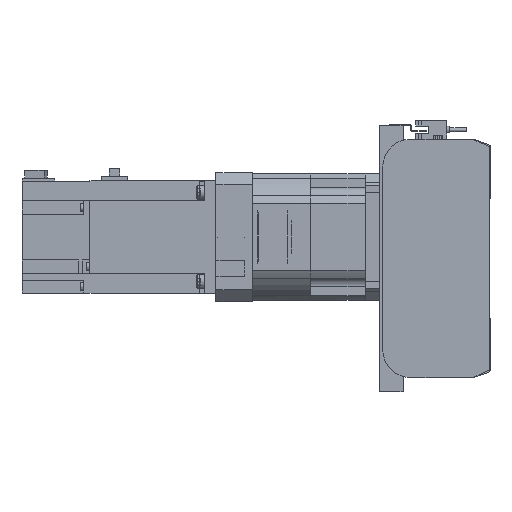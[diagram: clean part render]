
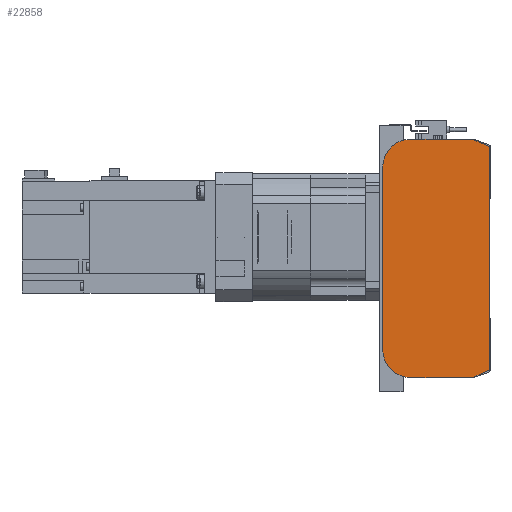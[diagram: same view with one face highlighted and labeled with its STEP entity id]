
A CAD part, left-side view. The second image highlights one B-rep face of the part: STEP entity #22858.
In plain terms, the highlighted planar face has unit normal (-1, 0, 0).
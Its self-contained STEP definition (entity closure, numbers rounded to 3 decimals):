
#1718=CIRCLE('',#25025,2.);
#1719=CIRCLE('',#25028,2.);
#1720=CIRCLE('',#25031,20.);
#1721=CIRCLE('',#25034,20.);
#6607=ORIENTED_EDGE('',*,*,#10845,.F.);
#6608=ORIENTED_EDGE('',*,*,#10923,.F.);
#6609=ORIENTED_EDGE('',*,*,#10921,.F.);
#6610=ORIENTED_EDGE('',*,*,#10919,.F.);
#6611=ORIENTED_EDGE('',*,*,#10637,.F.);
#6612=ORIENTED_EDGE('',*,*,#10918,.F.);
#6613=ORIENTED_EDGE('',*,*,#10916,.F.);
#6614=ORIENTED_EDGE('',*,*,#10914,.F.);
#6615=ORIENTED_EDGE('',*,*,#10912,.F.);
#6616=ORIENTED_EDGE('',*,*,#10910,.F.);
#10637=EDGE_CURVE('',#13129,#13130,#15077,.T.);
#10845=EDGE_CURVE('',#13201,#13202,#15191,.T.);
#10910=EDGE_CURVE('',#13202,#13243,#15236,.T.);
#10912=EDGE_CURVE('',#13243,#13244,#1718,.T.);
#10914=EDGE_CURVE('',#13244,#13245,#15239,.T.);
#10916=EDGE_CURVE('',#13245,#13246,#1719,.T.);
#10918=EDGE_CURVE('',#13246,#13129,#15242,.T.);
#10919=EDGE_CURVE('',#13130,#13247,#1720,.T.);
#10921=EDGE_CURVE('',#13247,#13248,#15244,.T.);
#10923=EDGE_CURVE('',#13248,#13201,#1721,.T.);
#13129=VERTEX_POINT('',#38397);
#13130=VERTEX_POINT('',#38399);
#13201=VERTEX_POINT('',#38730);
#13202=VERTEX_POINT('',#38732);
#13243=VERTEX_POINT('',#38862);
#13244=VERTEX_POINT('',#38866);
#13245=VERTEX_POINT('',#38870);
#13246=VERTEX_POINT('',#38874);
#13247=VERTEX_POINT('',#38880);
#13248=VERTEX_POINT('',#38884);
#15077=LINE('',#38398,#17012);
#15191=LINE('',#38731,#17126);
#15236=LINE('',#38861,#17171);
#15239=LINE('',#38869,#17174);
#15242=LINE('',#38877,#17177);
#15244=LINE('',#38883,#17179);
#17012=VECTOR('',#30341,1000.);
#17126=VECTOR('',#30749,1000.);
#17171=VECTOR('',#30882,1000.);
#17174=VECTOR('',#30891,1000.);
#17177=VECTOR('',#30900,1000.);
#17179=VECTOR('',#30908,1000.);
#18768=EDGE_LOOP('',(#6607,#6608,#6609,#6610,#6611,#6612,#6613,#6614,#6615,
#6616));
#20639=FACE_BOUND('',#18768,.T.);
#21702=PLANE('',#25036);
#22858=ADVANCED_FACE('',(#20639),#21702,.F.);
#25025=AXIS2_PLACEMENT_3D('',#38865,#30886,#30887);
#25028=AXIS2_PLACEMENT_3D('',#38873,#30895,#30896);
#25031=AXIS2_PLACEMENT_3D('',#38879,#30903,#30904);
#25034=AXIS2_PLACEMENT_3D('',#38887,#30912,#30913);
#25036=AXIS2_PLACEMENT_3D('',#38889,#30916,#30917);
#30341=DIRECTION('',(0.,1.,0.));
#30749=DIRECTION('',(0.,-1.,0.));
#30882=DIRECTION('',(0.,-0.913,-0.408));
#30886=DIRECTION('',(1.,0.,0.));
#30887=DIRECTION('',(0.,0.,-1.));
#30891=DIRECTION('',(0.,0.,-1.));
#30895=DIRECTION('',(1.,0.,0.));
#30896=DIRECTION('',(0.,0.,-1.));
#30900=DIRECTION('',(0.,0.913,-0.408));
#30903=DIRECTION('',(1.,0.,0.));
#30904=DIRECTION('',(0.,0.,-1.));
#30908=DIRECTION('',(0.,0.,1.));
#30912=DIRECTION('',(1.,0.,0.));
#30913=DIRECTION('',(0.,0.,-1.));
#30916=DIRECTION('',(1.,0.,0.));
#30917=DIRECTION('',(0.,0.,-1.));
#38397=CARTESIAN_POINT('',(0.,12.33,-85.));
#38398=CARTESIAN_POINT('',(0.,12.33,-85.));
#38399=CARTESIAN_POINT('',(0.,56.5,-85.));
#38730=CARTESIAN_POINT('',(0.,56.5,85.));
#38731=CARTESIAN_POINT('',(0.,56.5,85.));
#38732=CARTESIAN_POINT('',(0.,12.33,85.));
#38861=CARTESIAN_POINT('',(0.,12.33,85.));
#38862=CARTESIAN_POINT('',(0.,1.684,80.239));
#38865=CARTESIAN_POINT('',(0.,2.5,78.413));
#38866=CARTESIAN_POINT('',(0.,0.5,78.413));
#38869=CARTESIAN_POINT('',(0.,0.5,78.413));
#38870=CARTESIAN_POINT('',(0.,0.5,-78.413));
#38873=CARTESIAN_POINT('',(0.,2.5,-78.413));
#38874=CARTESIAN_POINT('',(0.,1.684,-80.239));
#38877=CARTESIAN_POINT('',(0.,1.684,-80.239));
#38879=CARTESIAN_POINT('',(0.,56.5,-65.));
#38880=CARTESIAN_POINT('',(0.,76.5,-65.));
#38883=CARTESIAN_POINT('',(0.,76.5,-65.));
#38884=CARTESIAN_POINT('',(0.,76.5,65.));
#38887=CARTESIAN_POINT('',(0.,56.5,65.));
#38889=CARTESIAN_POINT('',(0.,2.5,78.413));
